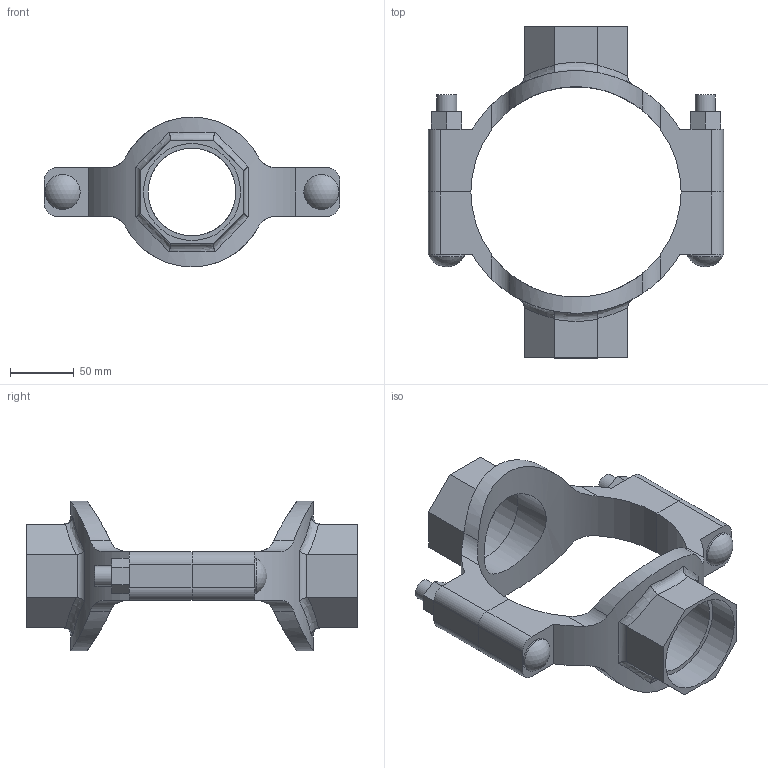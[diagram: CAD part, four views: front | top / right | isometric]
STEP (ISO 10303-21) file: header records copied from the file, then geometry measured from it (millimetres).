
FILE_DESCRIPTION(/* description */ ('VIC MECH-T BRANCH OUTLET CROSS STYLE 920N (THD)','CAx-IF Rec.Pracs.---Representation and Presentation of Product Manufacturing Information (PMI)---4.0---2014-10-13'),/* implementation_level */ '2;1');
FILE_NAME(/* name */ 'C:\Users\Vjadhav\AppData\Roaming\Autodesk\ApplicationPlugins\Back Up\Victaulic_IPS_Mechanical-Cross Outlet_Style 920N (FPT)\Victaulic_IPS_Mechanical-Cross Outlet_06.0 (165.1)x02.5 (76.1)x02.5 (76.1) (150x65x65).stp',/* time_stamp */ '2020-08-06T19:00:30+06:00',/* author */ ('Vjadhav'),/* organization */ ('Victaulic'),/* preprocessor_version */ 'ST-DEVELOPER v17.2',/* originating_system */ 'Autodesk Inventor 2019',/* authorisation */ '');
FILE_SCHEMA (('AP242_MANAGED_MODEL_BASED_3D_ENGINEERING_MIM_LF { 1 0 10303 442 1 1 4 }'));
Length unit declared in the file: inch
Products named in the file (3): 920NT-06.0 (165.1)x02.5 (76.1)x02.5 (76.1); 920T-06.0 (165.1)x02.5 (76.1); 920T-06.0 (165.1)x02.5 (76.1)_1
Assembly tree (2 placements, depth 2):
  920NT-06.0 (165.1)x02.5 (76.1)x02.5 (76.1)
    920T-06.0 (165.1)x02.5 (76.1)
    920T-06.0 (165.1)x02.5 (76.1)_1
Bounding box: 231.9 x 260.6 x 117.47 mm (x, y, z)
Volume: 632410.5 mm3; surface area: 159760.7 mm2
Topology: 2 solids, 2 shells, 128 faces, 338 edges, 228 vertices
Faces by surface type: plane 68, cylinder 46, bspline 8, torus 4, sphere 2
Full cylindrical faces by diameter (mm): 15.875 x4, 27.496 x2, 68.986 x2, 76.2 x2
Entity records: 5014 total; most frequent: CARTESIAN_POINT 1609, ORIENTED_EDGE 676, DIRECTION 628, EDGE_CURVE 338, VERTEX_POINT 228, AXIS2_PLACEMENT_3D 223, LINE 182, VECTOR 182
